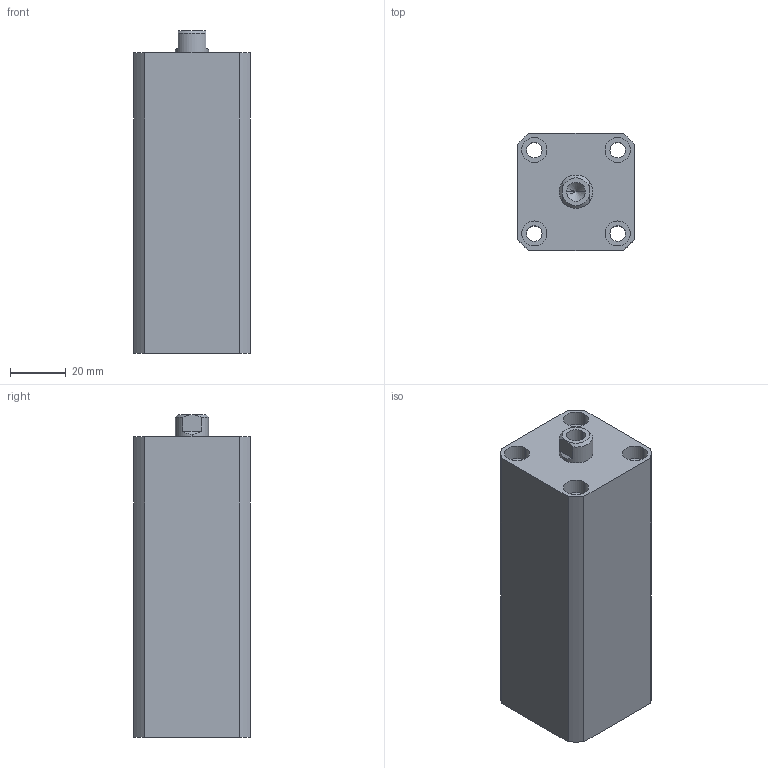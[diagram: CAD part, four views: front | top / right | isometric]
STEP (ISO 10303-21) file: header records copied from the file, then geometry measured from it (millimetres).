
FILE_DESCRIPTION (( 'STEP AP203' ), '1' );
FILE_NAME ('HTB-SDMB20-65N.STEP', '2019-10-09T00:06:46', ( '微软用户' ), ( '微软中国' ), 'SwSTEP 2.0', 'SolidWorks 2012', '' );
FILE_SCHEMA (( 'CONFIG_CONTROL_DESIGN' ));
Length unit declared in the file: millimetre
Products named in the file (3): HTB-SDMB20-65N; HTB-SDMB20-65N活塞杆; HTB-SDMB20-65掛极
Assembly tree (2 placements, depth 2):
  HTB-SDMB20-65N
    HTB-SDMB20-65掛极
    HTB-SDMB20-65N活塞杆
Bounding box: 42 x 42 x 116 mm (x, y, z)
Volume: 161853.2 mm3; surface area: 40184.6 mm2
Topology: 2 solids, 2 shells, 136 faces, 326 edges, 213 vertices
Faces by surface type: plane 64, cylinder 46, bspline 16, torus 6, cone 4
Entity records: 5023 total; most frequent: CARTESIAN_POINT 1570, ORIENTED_EDGE 648, DIRECTION 640, EDGE_CURVE 324, AXIS2_PLACEMENT_3D 231, VERTEX_POINT 213, VECTOR 178, LINE 178
